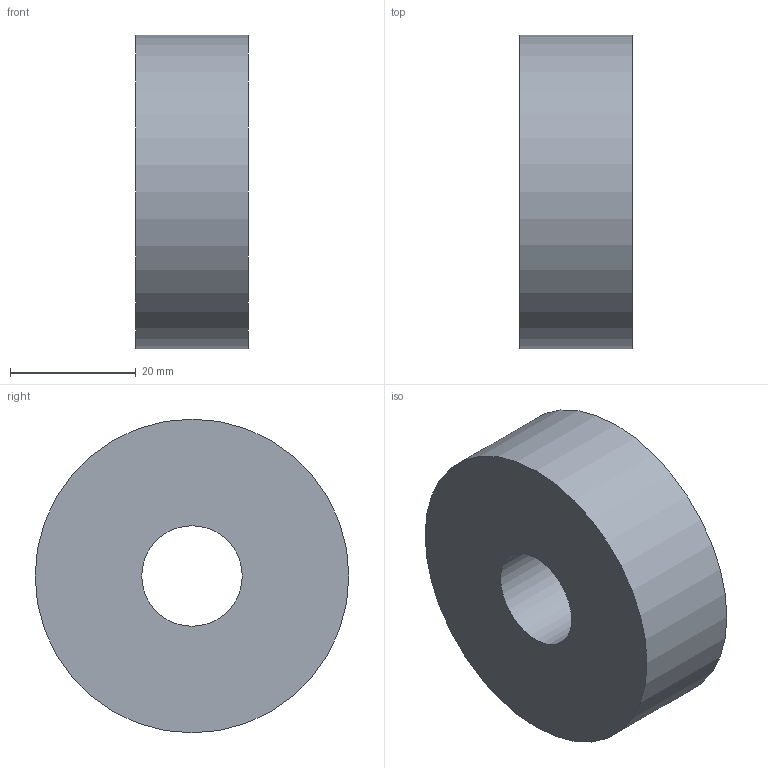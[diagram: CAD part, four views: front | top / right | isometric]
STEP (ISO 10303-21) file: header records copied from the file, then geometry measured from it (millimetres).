
FILE_DESCRIPTION(('Open CASCADE Model'),'2;1');
FILE_NAME('Open CASCADE Shape Model','2026-09-19T23:46:41',('Author'),( 'Open CASCADE'),'Open CASCADE STEP processor 7.9','Open CASCADE 7.9' ,'Unknown');
FILE_SCHEMA(('AUTOMOTIVE_DESIGN { 1 0 10303 214 1 1 1 1 }'));
Length unit declared in the file: millimetre
Products named in the file (1): Open CASCADE STEP translator 7.9 91
Bounding box: 18 x 50 x 50 mm (x, y, z)
Volume: 31723.8 mm3; surface area: 7257.1 mm2
Topology: 1 solids, 1 shells, 4 faces, 6 edges, 4 vertices
Faces by surface type: cylinder 2, plane 2
Full cylindrical faces by diameter (mm): 16 x1, 50 x1
Entity records: 186 total; most frequent: DIRECTION 32, CARTESIAN_POINT 27, ORIENTED_EDGE 12, PCURVE 12, DEFINITIONAL_REPRESENTATION 12, LINE 10, VECTOR 10, AXIS2_PLACEMENT_3D 9
